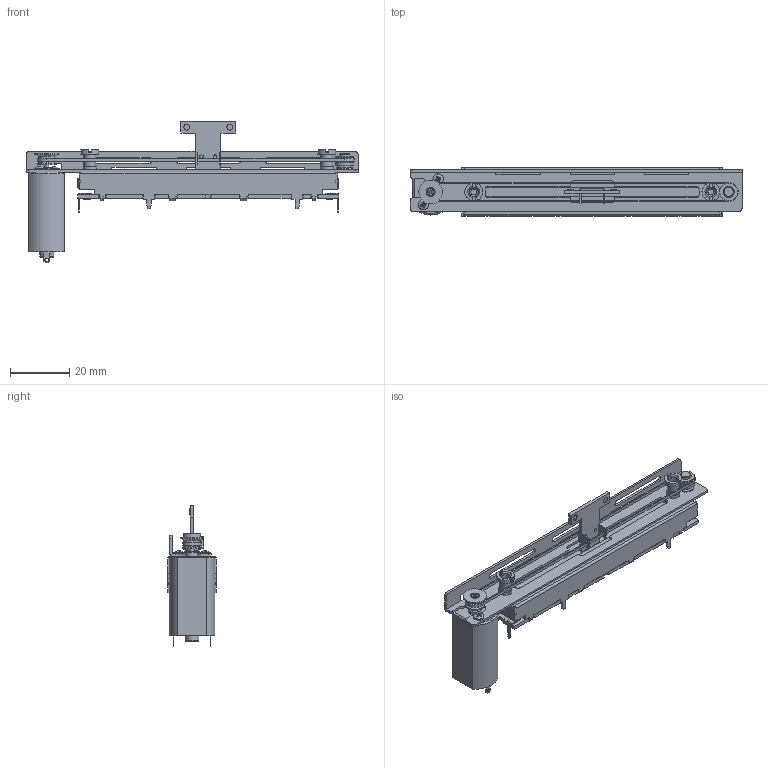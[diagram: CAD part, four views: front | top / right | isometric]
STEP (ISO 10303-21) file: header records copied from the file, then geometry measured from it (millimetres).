
FILE_DESCRIPTION(('FreeCAD Model'),'2;1');
FILE_NAME('Open CASCADE Shape Model','2025-09-08T12:39:19',(''),(''), 'Open CASCADE STEP processor 7.8','FreeCAD','Unknown');
FILE_SCHEMA(('AUTOMOTIVE_DESIGN { 1 0 10303 214 1 1 1 1 }'));
Length unit declared in the file: millimetre
Products named in the file (1): MLA2-6100
Bounding box: 112 x 16.5 x 47.8 mm (x, y, z)
Volume: 18510.2 mm3; surface area: 11300 mm2
Topology: 1 solids, 12 shells, 935 faces, 2521 edges, 1636 vertices
Faces by surface type: plane 633, cylinder 249, cone 39, torus 12, sphere 2
Full cylindrical faces by diameter (mm): 0.5 x5, 1.2 x6, 1.25 x2, 1.3 x1, 1.5 x6, 1.7 x8, 2 x7, 3 x10, 3.2 x2, 3.5 x5, 3.7 x1, 4 x5, 4.5 x2, 4.7 x2, 5 x2, 5.38 x1, 5.6 x1, 6 x4, 6.5 x1, 8 x1
Entity records: 35665 total; most frequent: CARTESIAN_POINT 5166, DIRECTION 5108, ORIENTED_EDGE 5042, EDGE_CURVE 2519, LINE 1780, VECTOR 1780, AXIS2_PLACEMENT_3D 1664, VERTEX_POINT 1636
